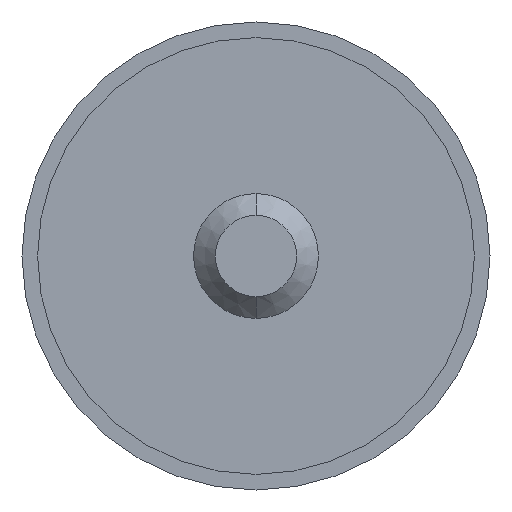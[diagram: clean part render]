
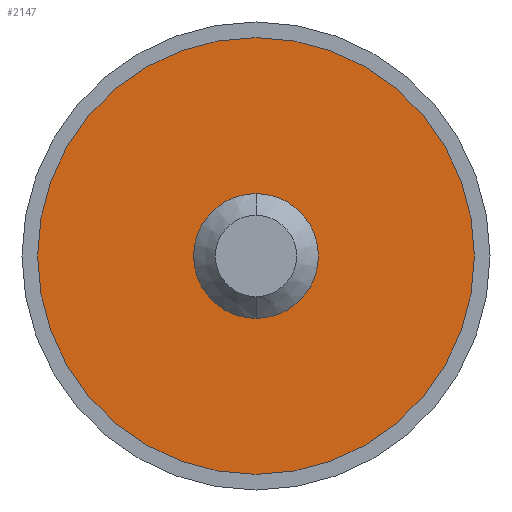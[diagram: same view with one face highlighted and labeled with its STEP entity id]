
A CAD part, front view. The second image highlights one B-rep face of the part: STEP entity #2147.
In plain terms, the highlighted planar face has unit normal (0, -1, 0).
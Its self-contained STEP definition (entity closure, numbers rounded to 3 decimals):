
#6 = DIRECTION ( 'NONE',  ( 0., 1., 0. ) ) ;
#29 = EDGE_CURVE ( 'NONE', #1019, #2920, #3101, .T. ) ;
#133 = DIRECTION ( 'NONE',  ( 0., -1., 0. ) ) ;
#136 = CARTESIAN_POINT ( 'NONE',  ( 0., -0.5, 0. ) ) ;
#137 = EDGE_CURVE ( 'NONE', #2920, #1019, #4711, .T. ) ;
#146 = EDGE_LOOP ( 'NONE', ( #3557, #2658 ) ) ;
#313 = CARTESIAN_POINT ( 'NONE',  ( 0., -0.5, 7. ) ) ;
#530 = DIRECTION ( 'NONE',  ( 0., -1., 0. ) ) ;
#828 = CIRCLE ( 'NONE', #869, 7. ) ;
#869 = AXIS2_PLACEMENT_3D ( 'NONE', #4701, #6, #2205 ) ;
#914 = DIRECTION ( 'NONE',  ( 0., 0., -1. ) ) ;
#1019 = VERTEX_POINT ( 'NONE', #3096 ) ;
#1040 = DIRECTION ( 'NONE',  ( 0., 0., 1. ) ) ;
#1236 = AXIS2_PLACEMENT_3D ( 'NONE', #3967, #2818, #1040 ) ;
#1414 = EDGE_CURVE ( 'NONE', #4482, #3733, #828, .T. ) ;
#1506 = EDGE_LOOP ( 'NONE', ( #2879, #1800 ) ) ;
#1692 = FACE_BOUND ( 'NONE', #146, .T. ) ;
#1800 = ORIENTED_EDGE ( 'NONE', *, *, #1414, .F. ) ;
#2147 = ADVANCED_FACE ( 'NONE', ( #1692, #3727 ), #3042, .F. ) ;
#2205 = DIRECTION ( 'NONE',  ( 0., 0., 1. ) ) ;
#2305 = CARTESIAN_POINT ( 'NONE',  ( 0., -0.5, 0. ) ) ;
#2437 = EDGE_CURVE ( 'NONE', #3733, #4482, #4058, .T. ) ;
#2658 = ORIENTED_EDGE ( 'NONE', *, *, #137, .F. ) ;
#2818 = DIRECTION ( 'NONE',  ( 0., 1., 0. ) ) ;
#2879 = ORIENTED_EDGE ( 'NONE', *, *, #2437, .F. ) ;
#2920 = VERTEX_POINT ( 'NONE', #4470 ) ;
#2998 = AXIS2_PLACEMENT_3D ( 'NONE', #3001, #530, #3025 ) ;
#3001 = CARTESIAN_POINT ( 'NONE',  ( 0., -0.5, 0. ) ) ;
#3025 = DIRECTION ( 'NONE',  ( 0., 0., -1. ) ) ;
#3042 = PLANE ( 'NONE',  #4424 ) ;
#3076 = DIRECTION ( 'NONE',  ( 0., 0., 1. ) ) ;
#3096 = CARTESIAN_POINT ( 'NONE',  ( 0., -0.5, 2. ) ) ;
#3101 = CIRCLE ( 'NONE', #2998, 2. ) ;
#3557 = ORIENTED_EDGE ( 'NONE', *, *, #29, .F. ) ;
#3620 = CARTESIAN_POINT ( 'NONE',  ( 0., -0.5, -7. ) ) ;
#3727 = FACE_OUTER_BOUND ( 'NONE', #1506, .T. ) ;
#3733 = VERTEX_POINT ( 'NONE', #313 ) ;
#3967 = CARTESIAN_POINT ( 'NONE',  ( 0., -0.5, 0. ) ) ;
#4058 = CIRCLE ( 'NONE', #1236, 7. ) ;
#4424 = AXIS2_PLACEMENT_3D ( 'NONE', #136, #4496, #3076 ) ;
#4470 = CARTESIAN_POINT ( 'NONE',  ( 0., -0.5, -2. ) ) ;
#4482 = VERTEX_POINT ( 'NONE', #3620 ) ;
#4496 = DIRECTION ( 'NONE',  ( 0., 1., 0. ) ) ;
#4701 = CARTESIAN_POINT ( 'NONE',  ( 0., -0.5, 0. ) ) ;
#4711 = CIRCLE ( 'NONE', #4718, 2. ) ;
#4718 = AXIS2_PLACEMENT_3D ( 'NONE', #2305, #133, #914 ) ;
